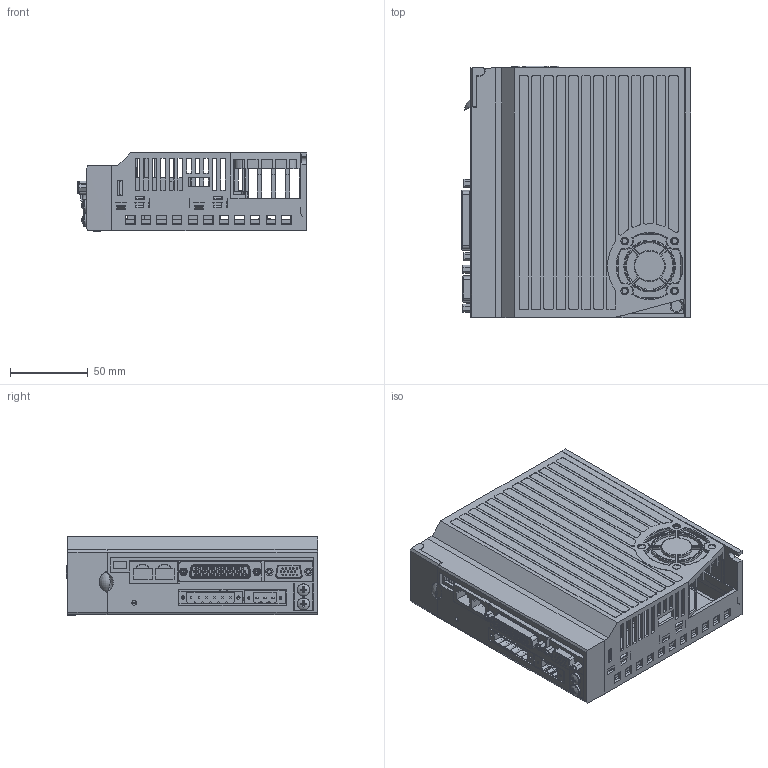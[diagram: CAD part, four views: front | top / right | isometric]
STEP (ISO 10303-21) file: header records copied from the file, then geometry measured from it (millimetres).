
FILE_DESCRIPTION((''),'2;1');
FILE_NAME('DA180_750W_SW0001','2020-06-20T',('DELL'),(''),'PRO/ENGINEER BY PARAMETRIC TECHNOLOGY CORPORATION, 2010280','PRO/ENGINEER BY PARAMETRIC TECHNOLOGY CORPORATION, 2010280','');
FILE_SCHEMA(('AUTOMOTIVE_DESIGN { 1 2 10303 214 0 1 1 1 }'));
Products named in the file (1): DA180_750W_SW0001
Bounding box: 146.95 x 161 x 50.16 mm (x, y, z)
Surface area: 182250.4 mm2 (no closed solid volume)
Topology: 0 solids, 9 shells, 2554 faces, 6686 edges, 4327 vertices
Faces by surface type: plane 1709, cylinder 566, cone 216, torus 51, bspline 10, sphere 2
Entity records: 82191 total; most frequent: CARTESIAN_POINT 18927, ORIENTED_EDGE 13344, DIRECTION 12609, EDGE_CURVE 6672, VECTOR 4505, LINE 4505, VERTEX_POINT 4326, AXIS2_PLACEMENT_3D 4052
